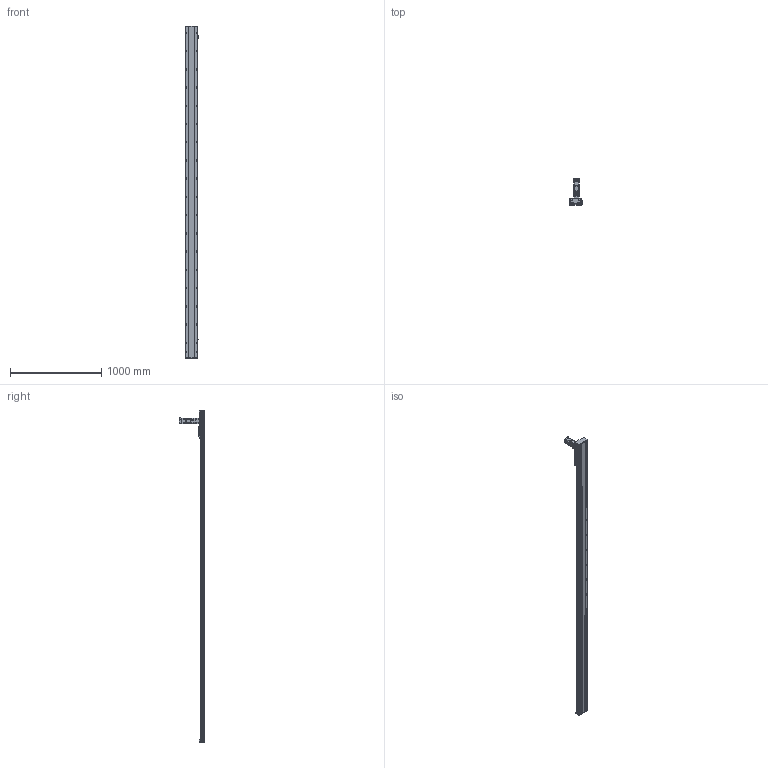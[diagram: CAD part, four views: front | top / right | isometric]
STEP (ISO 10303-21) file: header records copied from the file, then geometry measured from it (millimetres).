
FILE_DESCRIPTION (( 'STEP AP214' ), '1' );
FILE_NAME ('SHS140-S3300.STEP', '2022-12-05T08:47:42', ( '' ), ( '' ), 'SwSTEP 2.0', 'SolidWorks 2020', '' );
FILE_SCHEMA (( 'AUTOMOTIVE_DESIGN' ));
Length unit declared in the file: millimetre
Products named in the file (10): SHS140-S3300.step; SHS140____.step; SHS140______.step; _SXR24-100_b.step; 錨璃242^SHS140-S3300; SB-62-3-P1-C20604_203.step; SGMJV-04ADA6E.step; EE-SX672.step; SHS140-DZ-3300.step; SHS140-S3300
Assembly tree (16 placements, depth 3):
  SHS140-S3300
    SHS140-S3300.step
      SHS140-DZ-3300.step
      SHS140______.step
      SHS140____.step
      _SXR24-100_b.step  x6
      SB-62-3-P1-C20604_203.step
      SGMJV-04ADA6E.step
      EE-SX672.step  x3
    錨璃242^SHS140-S3300
Bounding box: 151.2 x 280.6 x 3640 mm (x, y, z)
Volume: 12171605.3 mm3; surface area: 3273940.8 mm2
Topology: 107 solids, 107 shells, 4478 faces, 12092 edges, 7863 vertices
Faces by surface type: plane 2400, cylinder 1361, bspline 406, cone 299, torus 12
Entity records: 136351 total; most frequent: CARTESIAN_POINT 48659, ORIENTED_EDGE 18790, DIRECTION 16596, EDGE_CURVE 9395, VERTEX_POINT 6143, LINE 5622, VECTOR 5622, AXIS2_PLACEMENT_3D 5487
